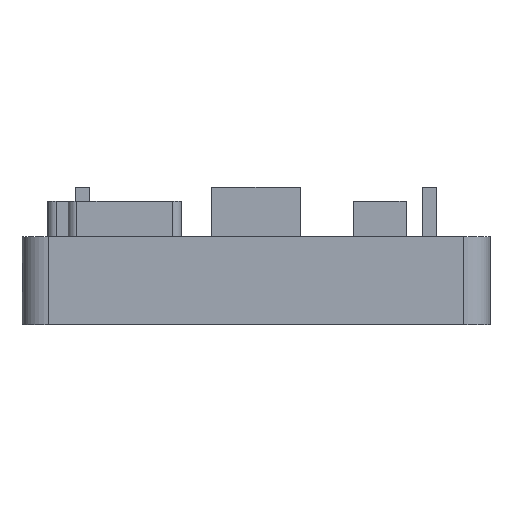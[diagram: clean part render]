
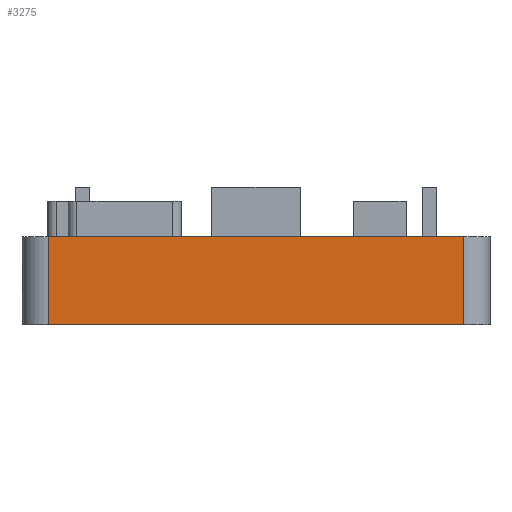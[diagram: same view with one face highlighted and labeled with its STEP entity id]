
A CAD part, front view. The second image highlights one B-rep face of the part: STEP entity #3275.
In plain terms, the highlighted planar face has unit normal (0, -1, 0).
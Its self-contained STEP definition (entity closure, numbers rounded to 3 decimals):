
#44 = PLANE('',#45);
#45 = AXIS2_PLACEMENT_3D('',#46,#47,#48);
#46 = CARTESIAN_POINT('',(-13.25,-13.25,5.));
#47 = DIRECTION('',(0.,0.,1.));
#48 = DIRECTION('',(1.,0.,0.));
#72 = CYLINDRICAL_SURFACE('',#73,1.5);
#73 = AXIS2_PLACEMENT_3D('',#74,#75,#76);
#74 = CARTESIAN_POINT('',(-11.75,-11.75,0.));
#75 = DIRECTION('',(0.,0.,1.));
#76 = DIRECTION('',(-1.,-0.,0.));
#201 = PLANE('',#202);
#202 = AXIS2_PLACEMENT_3D('',#203,#204,#205);
#203 = CARTESIAN_POINT('',(-13.25,-13.25,0.));
#204 = DIRECTION('',(0.,0.,1.));
#205 = DIRECTION('',(1.,0.,0.));
#350 = VERTEX_POINT('',#351);
#351 = CARTESIAN_POINT('',(-11.75,-13.25,5.));
#373 = EDGE_CURVE('',#350,#374,#376,.T.);
#374 = VERTEX_POINT('',#375);
#375 = CARTESIAN_POINT('',(11.75,-13.25,5.));
#376 = SURFACE_CURVE('',#377,(#381,#388),.PCURVE_S1.);
#377 = LINE('',#378,#379);
#378 = CARTESIAN_POINT('',(-13.25,-13.25,5.));
#379 = VECTOR('',#380,1.);
#380 = DIRECTION('',(1.,0.,0.));
#381 = PCURVE('',#44,#382);
#382 = DEFINITIONAL_REPRESENTATION('',(#383),#387);
#383 = LINE('',#384,#385);
#384 = CARTESIAN_POINT('',(0.,0.));
#385 = VECTOR('',#386,1.);
#386 = DIRECTION('',(1.,0.));
#387 = ( GEOMETRIC_REPRESENTATION_CONTEXT(2) 
PARAMETRIC_REPRESENTATION_CONTEXT() REPRESENTATION_CONTEXT('2D SPACE',''
  ) );
#388 = PCURVE('',#389,#394);
#389 = PLANE('',#390);
#390 = AXIS2_PLACEMENT_3D('',#391,#392,#393);
#391 = CARTESIAN_POINT('',(-13.25,-13.25,0.));
#392 = DIRECTION('',(0.,1.,0.));
#393 = DIRECTION('',(0.,0.,1.));
#394 = DEFINITIONAL_REPRESENTATION('',(#395),#399);
#395 = LINE('',#396,#397);
#396 = CARTESIAN_POINT('',(5.,0.));
#397 = VECTOR('',#398,1.);
#398 = DIRECTION('',(0.,1.));
#399 = ( GEOMETRIC_REPRESENTATION_CONTEXT(2) 
PARAMETRIC_REPRESENTATION_CONTEXT() REPRESENTATION_CONTEXT('2D SPACE',''
  ) );
#422 = CYLINDRICAL_SURFACE('',#423,1.5);
#423 = AXIS2_PLACEMENT_3D('',#424,#425,#426);
#424 = CARTESIAN_POINT('',(11.75,-11.75,0.));
#425 = DIRECTION('',(0.,0.,1.));
#426 = DIRECTION('',(1.,0.,-0.));
#2042 = VERTEX_POINT('',#2043);
#2043 = CARTESIAN_POINT('',(-11.75,-13.25,0.));
#2065 = EDGE_CURVE('',#2042,#2066,#2068,.T.);
#2066 = VERTEX_POINT('',#2067);
#2067 = CARTESIAN_POINT('',(11.75,-13.25,0.));
#2068 = SURFACE_CURVE('',#2069,(#2073,#2080),.PCURVE_S1.);
#2069 = LINE('',#2070,#2071);
#2070 = CARTESIAN_POINT('',(-13.25,-13.25,0.));
#2071 = VECTOR('',#2072,1.);
#2072 = DIRECTION('',(1.,0.,0.));
#2073 = PCURVE('',#201,#2074);
#2074 = DEFINITIONAL_REPRESENTATION('',(#2075),#2079);
#2075 = LINE('',#2076,#2077);
#2076 = CARTESIAN_POINT('',(0.,0.));
#2077 = VECTOR('',#2078,1.);
#2078 = DIRECTION('',(1.,0.));
#2079 = ( GEOMETRIC_REPRESENTATION_CONTEXT(2) 
PARAMETRIC_REPRESENTATION_CONTEXT() REPRESENTATION_CONTEXT('2D SPACE',''
  ) );
#2080 = PCURVE('',#389,#2081);
#2081 = DEFINITIONAL_REPRESENTATION('',(#2082),#2086);
#2082 = LINE('',#2083,#2084);
#2083 = CARTESIAN_POINT('',(0.,0.));
#2084 = VECTOR('',#2085,1.);
#2085 = DIRECTION('',(0.,1.));
#2086 = ( GEOMETRIC_REPRESENTATION_CONTEXT(2) 
PARAMETRIC_REPRESENTATION_CONTEXT() REPRESENTATION_CONTEXT('2D SPACE',''
  ) );
#2324 = EDGE_CURVE('',#2042,#350,#2325,.T.);
#2325 = SURFACE_CURVE('',#2326,(#2330,#2337),.PCURVE_S1.);
#2326 = LINE('',#2327,#2328);
#2327 = CARTESIAN_POINT('',(-11.75,-13.25,0.));
#2328 = VECTOR('',#2329,1.);
#2329 = DIRECTION('',(0.,0.,1.));
#2330 = PCURVE('',#72,#2331);
#2331 = DEFINITIONAL_REPRESENTATION('',(#2332),#2336);
#2332 = LINE('',#2333,#2334);
#2333 = CARTESIAN_POINT('',(1.571,0.));
#2334 = VECTOR('',#2335,1.);
#2335 = DIRECTION('',(0.,1.));
#2336 = ( GEOMETRIC_REPRESENTATION_CONTEXT(2) 
PARAMETRIC_REPRESENTATION_CONTEXT() REPRESENTATION_CONTEXT('2D SPACE',''
  ) );
#2337 = PCURVE('',#389,#2338);
#2338 = DEFINITIONAL_REPRESENTATION('',(#2339),#2343);
#2339 = LINE('',#2340,#2341);
#2340 = CARTESIAN_POINT('',(0.,1.5));
#2341 = VECTOR('',#2342,1.);
#2342 = DIRECTION('',(1.,0.));
#2343 = ( GEOMETRIC_REPRESENTATION_CONTEXT(2) 
PARAMETRIC_REPRESENTATION_CONTEXT() REPRESENTATION_CONTEXT('2D SPACE',''
  ) );
#3275 = ADVANCED_FACE('',(#3276),#389,.F.);
#3276 = FACE_BOUND('',#3277,.F.);
#3277 = EDGE_LOOP('',(#3278,#3279,#3280,#3281));
#3278 = ORIENTED_EDGE('',*,*,#2065,.F.);
#3279 = ORIENTED_EDGE('',*,*,#2324,.T.);
#3280 = ORIENTED_EDGE('',*,*,#373,.T.);
#3281 = ORIENTED_EDGE('',*,*,#3282,.F.);
#3282 = EDGE_CURVE('',#2066,#374,#3283,.T.);
#3283 = SURFACE_CURVE('',#3284,(#3288,#3295),.PCURVE_S1.);
#3284 = LINE('',#3285,#3286);
#3285 = CARTESIAN_POINT('',(11.75,-13.25,0.));
#3286 = VECTOR('',#3287,1.);
#3287 = DIRECTION('',(0.,0.,1.));
#3288 = PCURVE('',#389,#3289);
#3289 = DEFINITIONAL_REPRESENTATION('',(#3290),#3294);
#3290 = LINE('',#3291,#3292);
#3291 = CARTESIAN_POINT('',(0.,25.));
#3292 = VECTOR('',#3293,1.);
#3293 = DIRECTION('',(1.,0.));
#3294 = ( GEOMETRIC_REPRESENTATION_CONTEXT(2) 
PARAMETRIC_REPRESENTATION_CONTEXT() REPRESENTATION_CONTEXT('2D SPACE',''
  ) );
#3295 = PCURVE('',#422,#3296);
#3296 = DEFINITIONAL_REPRESENTATION('',(#3297),#3301);
#3297 = LINE('',#3298,#3299);
#3298 = CARTESIAN_POINT('',(-1.571,0.));
#3299 = VECTOR('',#3300,1.);
#3300 = DIRECTION('',(-0.,1.));
#3301 = ( GEOMETRIC_REPRESENTATION_CONTEXT(2) 
PARAMETRIC_REPRESENTATION_CONTEXT() REPRESENTATION_CONTEXT('2D SPACE',''
  ) );
